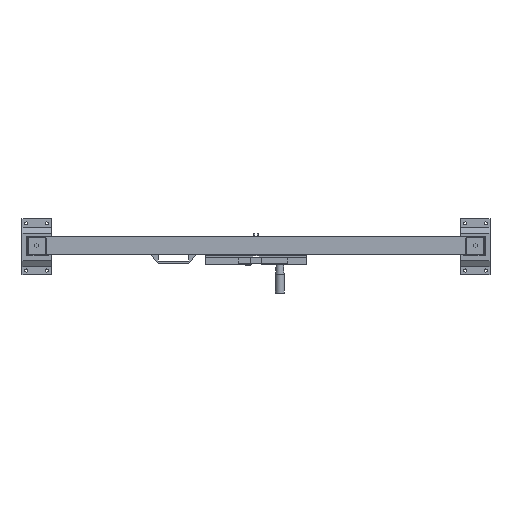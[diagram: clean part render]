
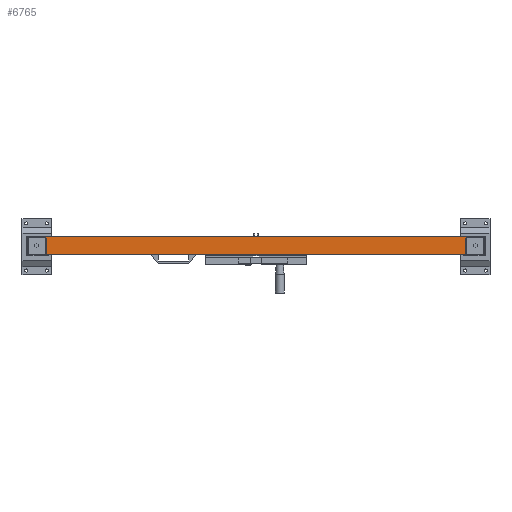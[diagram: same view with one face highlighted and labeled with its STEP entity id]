
A CAD part, top view. The second image highlights one B-rep face of the part: STEP entity #6765.
In plain terms, the highlighted planar face has unit normal (0, 0, 1).
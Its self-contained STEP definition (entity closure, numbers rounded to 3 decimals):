
#718=FACE_OUTER_BOUND('',#1061,.T.);
#1061=EDGE_LOOP('',(#4809,#4810,#4811,#4812));
#1494=LINE('',#9543,#2336);
#1495=LINE('',#9546,#2337);
#1496=LINE('',#9548,#2338);
#1497=LINE('',#9549,#2339);
#2336=VECTOR('',#7708,1.);
#2337=VECTOR('',#7711,1.);
#2338=VECTOR('',#7712,1.);
#2339=VECTOR('',#7713,1.);
#3155=VERTEX_POINT('',#9536);
#3158=VERTEX_POINT('',#9541);
#3159=VERTEX_POINT('',#9545);
#3160=VERTEX_POINT('',#9547);
#3829=EDGE_CURVE('',#3155,#3158,#1494,.T.);
#3830=EDGE_CURVE('',#3159,#3155,#1495,.T.);
#3831=EDGE_CURVE('',#3160,#3158,#1496,.T.);
#3832=EDGE_CURVE('',#3159,#3160,#1497,.T.);
#4809=ORIENTED_EDGE('',*,*,#3830,.T.);
#4810=ORIENTED_EDGE('',*,*,#3829,.T.);
#4811=ORIENTED_EDGE('',*,*,#3831,.F.);
#4812=ORIENTED_EDGE('',*,*,#3832,.F.);
#6464=PLANE('',#7135);
#6765=ADVANCED_FACE('',(#718),#6464,.T.);
#7135=AXIS2_PLACEMENT_3D('',#9544,#7709,#7710);
#7708=DIRECTION('',(1.,0.,0.));
#7709=DIRECTION('center_axis',(0.,0.,1.));
#7710=DIRECTION('ref_axis',(0.,-1.,0.));
#7711=DIRECTION('',(0.,-1.,0.));
#7712=DIRECTION('',(0.,-1.,0.));
#7713=DIRECTION('',(1.,0.,0.));
#9536=CARTESIAN_POINT('',(1904.431,1615.894,2399.));
#9541=CARTESIAN_POINT('',(3344.431,1615.894,2399.));
#9543=CARTESIAN_POINT('',(1904.431,1615.894,2399.));
#9544=CARTESIAN_POINT('Origin',(1904.431,1675.894,2399.));
#9545=CARTESIAN_POINT('',(1904.431,1675.894,2399.));
#9546=CARTESIAN_POINT('',(1904.431,1675.894,2399.));
#9547=CARTESIAN_POINT('',(3344.431,1675.894,2399.));
#9548=CARTESIAN_POINT('',(3344.431,1675.894,2399.));
#9549=CARTESIAN_POINT('',(1904.431,1675.894,2399.));
